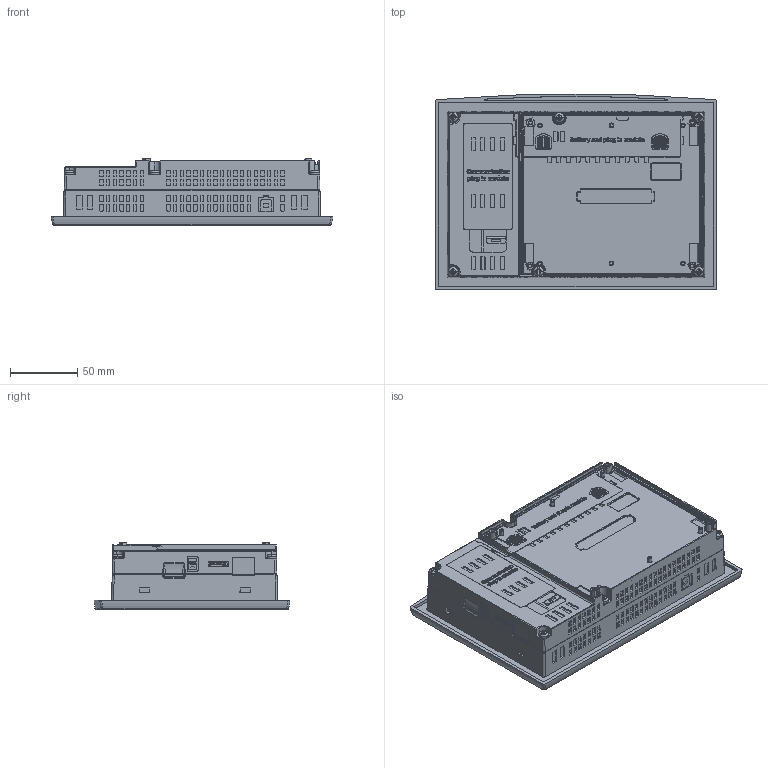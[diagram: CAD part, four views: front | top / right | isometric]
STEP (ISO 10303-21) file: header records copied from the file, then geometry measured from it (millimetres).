
FILE_DESCRIPTION (( 'STEP AP203' ), '1' );
FILE_NAME ('V700.STEP', '2015-06-01T06:18:29', ( 'dell' ), ( '' ), 'SwSTEP 2.0', 'SolidWorks 2014', '' );
FILE_SCHEMA (( 'CONFIG_CONTROL_DESIGN' ));
Length unit declared in the file: millimetre
Products named in the file (1): V700
Bounding box: 209.98 x 145.86 x 49.4 mm (x, y, z)
Volume: 1041076.9 mm3; surface area: 106734.9 mm2
Topology: 1 solids, 11 shells, 4702 faces, 12500 edges, 8166 vertices
Faces by surface type: plane 2496, cylinder 942, bspline 743, cone 313, torus 189, sphere 19
Entity records: 180004 total; most frequent: CARTESIAN_POINT 71077, ORIENTED_EDGE 24972, DIRECTION 19059, EDGE_CURVE 12486, VERTEX_POINT 8162, LINE 7161, VECTOR 7161, AXIS2_PLACEMENT_3D 5949
